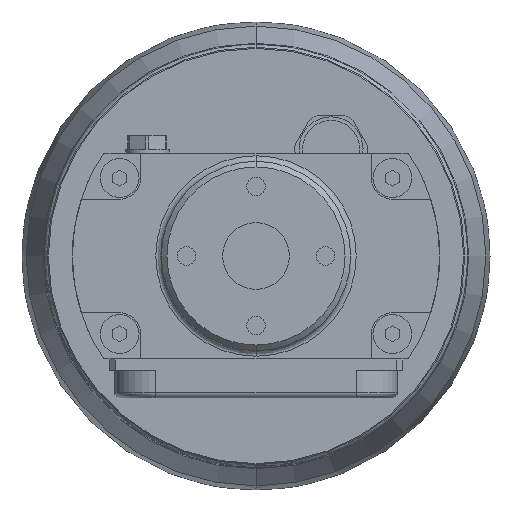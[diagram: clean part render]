
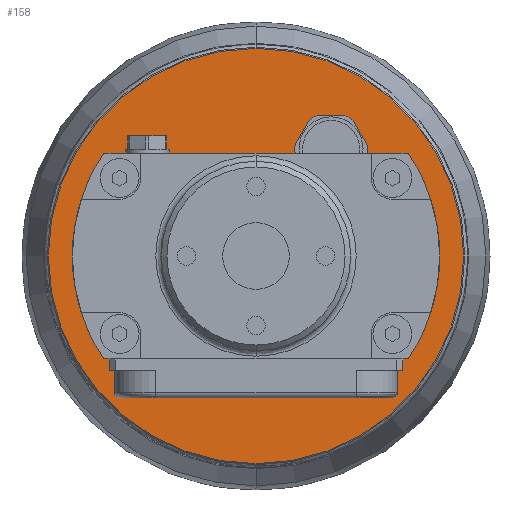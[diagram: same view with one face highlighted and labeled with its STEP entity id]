
A CAD part, front view. The second image highlights one B-rep face of the part: STEP entity #158.
In plain terms, the highlighted planar face has unit normal (0, -1, 0).
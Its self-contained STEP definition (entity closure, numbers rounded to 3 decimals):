
#158=ADVANCED_FACE('',(#1524,#1525,#1526),#1523,.F.);
#1523=PLANE('',#3728);
#1524=FACE_OUTER_BOUND('',#3729,.T.);
#1525=FACE_BOUND('',#3730,.T.);
#1526=FACE_BOUND('',#3731,.T.);
#3725=CARTESIAN_POINT('',(-74.605,29.5,-47.3));
#3726=DIRECTION('',(0.,1.,0.));
#3727=DIRECTION('',(0.,0.,1.));
#3728=AXIS2_PLACEMENT_3D('',#3725,#3726,#3727);
#3729=EDGE_LOOP('',(#6001,#6002));
#3730=EDGE_LOOP('',(#6003,#6004,#6005,#6006,#6007,#6008,#6009,#6010,#6011,#6012,#6013,#6014));
#3731=EDGE_LOOP('',(#6015,#6016,#6017,#6018,#6019,#6020,#6021,#6022));
#6001=ORIENTED_EDGE('',*,*,#7112,.T.);
#6002=ORIENTED_EDGE('',*,*,#7113,.T.);
#6003=ORIENTED_EDGE('',*,*,#7089,.F.);
#6004=ORIENTED_EDGE('',*,*,#7091,.F.);
#6005=ORIENTED_EDGE('',*,*,#7058,.F.);
#6006=ORIENTED_EDGE('',*,*,#7062,.F.);
#6007=ORIENTED_EDGE('',*,*,#7065,.F.);
#6008=ORIENTED_EDGE('',*,*,#7068,.F.);
#6009=ORIENTED_EDGE('',*,*,#7071,.F.);
#6010=ORIENTED_EDGE('',*,*,#7074,.F.);
#6011=ORIENTED_EDGE('',*,*,#7077,.F.);
#6012=ORIENTED_EDGE('',*,*,#7080,.F.);
#6013=ORIENTED_EDGE('',*,*,#7083,.F.);
#6014=ORIENTED_EDGE('',*,*,#7086,.F.);
#6015=ORIENTED_EDGE('',*,*,#7043,.F.);
#6016=ORIENTED_EDGE('',*,*,#7049,.F.);
#6017=ORIENTED_EDGE('',*,*,#7031,.F.);
#6018=ORIENTED_EDGE('',*,*,#7034,.F.);
#6019=ORIENTED_EDGE('',*,*,#7044,.F.);
#6020=ORIENTED_EDGE('',*,*,#7036,.F.);
#6021=ORIENTED_EDGE('',*,*,#7039,.T.);
#6022=ORIENTED_EDGE('',*,*,#7041,.F.);
#7031=EDGE_CURVE('',#9375,#9382,#9383,.T.);
#7034=EDGE_CURVE('',#9395,#9375,#9402,.T.);
#7036=EDGE_CURVE('',#9408,#9415,#9416,.T.);
#7039=EDGE_CURVE('',#9408,#9428,#9435,.T.);
#7041=EDGE_CURVE('',#9441,#9428,#9448,.T.);
#7043=EDGE_CURVE('',#9454,#9441,#9461,.T.);
#7044=EDGE_CURVE('',#9415,#9395,#9467,.T.);
#7049=EDGE_CURVE('',#9382,#9454,#9501,.T.);
#7058=EDGE_CURVE('',#9557,#9564,#9565,.T.);
#7062=EDGE_CURVE('',#9584,#9557,#9591,.T.);
#7065=EDGE_CURVE('',#9604,#9584,#9611,.T.);
#7068=EDGE_CURVE('',#9624,#9604,#9631,.T.);
#7071=EDGE_CURVE('',#9644,#9624,#9651,.T.);
#7074=EDGE_CURVE('',#9664,#9644,#9671,.T.);
#7077=EDGE_CURVE('',#9684,#9664,#9691,.T.);
#7080=EDGE_CURVE('',#9704,#9684,#9711,.T.);
#7083=EDGE_CURVE('',#9724,#9704,#9731,.T.);
#7086=EDGE_CURVE('',#9744,#9724,#9751,.T.);
#7089=EDGE_CURVE('',#9764,#9744,#9771,.T.);
#7091=EDGE_CURVE('',#9564,#9764,#9783,.T.);
#7112=EDGE_CURVE('',#9929,#9930,#9931,.T.);
#7113=EDGE_CURVE('',#9930,#9929,#9937,.T.);
#9375=VERTEX_POINT('',#12979);
#9382=VERTEX_POINT('',#12983);
#9383=LINE('',#12984,#12985);
#9395=VERTEX_POINT('',#12990);
#9402=CIRCLE('',#12997,33.);
#9408=VERTEX_POINT('',#12998);
#9415=VERTEX_POINT('',#13002);
#9416=CIRCLE('',#13006,1.);
#9428=VERTEX_POINT('',#13010);
#9435=CIRCLE('',#13017,8.5);
#9441=VERTEX_POINT('',#13018);
#9448=CIRCLE('',#13025,1.);
#9454=VERTEX_POINT('',#13026);
#9461=LINE('',#13030,#13031);
#9467=LINE('',#13033,#13034);
#9501=CIRCLE('',#13059,33.);
#9557=VERTEX_POINT('',#13096);
#9564=VERTEX_POINT('',#13100);
#9565=CIRCLE('',#13104,6.5);
#9584=VERTEX_POINT('',#13112);
#9591=LINE('',#13116,#13117);
#9604=VERTEX_POINT('',#13124);
#9611=CIRCLE('',#13131,6.5);
#9624=VERTEX_POINT('',#13136);
#9631=LINE('',#13140,#13141);
#9644=VERTEX_POINT('',#13148);
#9651=CIRCLE('',#13155,6.5);
#9664=VERTEX_POINT('',#13160);
#9671=LINE('',#13164,#13165);
#9684=VERTEX_POINT('',#13172);
#9691=CIRCLE('',#13179,6.5);
#9704=VERTEX_POINT('',#13184);
#9711=LINE('',#13188,#13189);
#9724=VERTEX_POINT('',#13196);
#9731=CIRCLE('',#13203,6.5);
#9744=VERTEX_POINT('',#13208);
#9751=LINE('',#13212,#13213);
#9764=VERTEX_POINT('',#13220);
#9771=CIRCLE('',#13227,6.5);
#9783=LINE('',#13231,#13232);
#9929=VERTEX_POINT('',#13334);
#9930=VERTEX_POINT('',#13335);
#9931=CIRCLE('',#13339,37.3);
#9937=CIRCLE('',#13343,37.3);
#12979=CARTESIAN_POINT('',(-27.327,29.5,-18.5));
#12983=CARTESIAN_POINT('',(27.327,29.5,-18.5));
#12984=CARTESIAN_POINT('',(-27.327,29.5,-18.5));
#12985=VECTOR('',#12986,54.653);
#12986=DIRECTION('',(1.,0.,0.));
#12990=CARTESIAN_POINT('',(-27.327,29.5,18.5));
#12994=CARTESIAN_POINT('',(0.,29.5,0.));
#12995=DIRECTION('',(0.,-1.,0.));
#12996=DIRECTION('',(0.,0.,1.));
#12997=AXIS2_PLACEMENT_3D('',#12994,#12995,#12996);
#12998=CARTESIAN_POINT('',(5.125,29.5,17.684));
#13002=CARTESIAN_POINT('',(4.142,29.5,18.5));
#13003=CARTESIAN_POINT('',(4.142,29.5,17.5));
#13004=DIRECTION('',(0.,-1.,0.));
#13005=DIRECTION('',(0.,0.,1.));
#13006=AXIS2_PLACEMENT_3D('',#13003,#13004,#13005);
#13010=CARTESIAN_POINT('',(21.834,29.5,17.684));
#13014=CARTESIAN_POINT('',(13.479,29.5,19.25));
#13015=DIRECTION('',(0.,-1.,0.));
#13016=DIRECTION('',(0.,0.,1.));
#13017=AXIS2_PLACEMENT_3D('',#13014,#13015,#13016);
#13018=CARTESIAN_POINT('',(22.816,29.5,18.5));
#13022=CARTESIAN_POINT('',(22.816,29.5,17.5));
#13023=DIRECTION('',(0.,-1.,0.));
#13024=DIRECTION('',(0.,0.,1.));
#13025=AXIS2_PLACEMENT_3D('',#13022,#13023,#13024);
#13026=CARTESIAN_POINT('',(27.327,29.5,18.5));
#13030=CARTESIAN_POINT('',(27.327,29.5,18.5));
#13031=VECTOR('',#13032,4.51);
#13032=DIRECTION('',(-1.,0.,0.));
#13033=CARTESIAN_POINT('',(4.142,29.5,18.5));
#13034=VECTOR('',#13035,31.468);
#13035=DIRECTION('',(-1.,0.,0.));
#13056=CARTESIAN_POINT('',(0.,29.5,0.));
#13057=DIRECTION('',(0.,-1.,0.));
#13058=DIRECTION('',(0.,0.,1.));
#13059=AXIS2_PLACEMENT_3D('',#13056,#13057,#13058);
#13096=CARTESIAN_POINT('',(9.533,29.5,14.085));
#13100=CARTESIAN_POINT('',(10.979,29.5,13.25));
#13101=CARTESIAN_POINT('',(13.479,29.5,19.25));
#13102=DIRECTION('',(0.,-1.,0.));
#13103=DIRECTION('',(0.,0.,1.));
#13104=AXIS2_PLACEMENT_3D('',#13101,#13102,#13103);
#13112=CARTESIAN_POINT('',(7.033,29.5,18.415));
#13116=CARTESIAN_POINT('',(7.033,29.5,18.415));
#13117=VECTOR('',#13118,5.);
#13118=DIRECTION('',(0.5,0.,-0.866));
#13124=CARTESIAN_POINT('',(7.033,29.5,20.085));
#13128=CARTESIAN_POINT('',(13.479,29.5,19.25));
#13129=DIRECTION('',(0.,-1.,0.));
#13130=DIRECTION('',(0.,0.,1.));
#13131=AXIS2_PLACEMENT_3D('',#13128,#13129,#13130);
#13136=CARTESIAN_POINT('',(9.533,29.5,24.415));
#13140=CARTESIAN_POINT('',(9.533,29.5,24.415));
#13141=VECTOR('',#13142,5.);
#13142=DIRECTION('',(-0.5,0.,-0.866));
#13148=CARTESIAN_POINT('',(10.979,29.5,25.25));
#13152=CARTESIAN_POINT('',(13.479,29.5,19.25));
#13153=DIRECTION('',(0.,-1.,0.));
#13154=DIRECTION('',(0.,0.,1.));
#13155=AXIS2_PLACEMENT_3D('',#13152,#13153,#13154);
#13160=CARTESIAN_POINT('',(15.979,29.5,25.25));
#13164=CARTESIAN_POINT('',(15.979,29.5,25.25));
#13165=VECTOR('',#13166,5.);
#13166=DIRECTION('',(-1.,0.,0.));
#13172=CARTESIAN_POINT('',(17.425,29.5,24.415));
#13176=CARTESIAN_POINT('',(13.479,29.5,19.25));
#13177=DIRECTION('',(0.,-1.,0.));
#13178=DIRECTION('',(0.,0.,1.));
#13179=AXIS2_PLACEMENT_3D('',#13176,#13177,#13178);
#13184=CARTESIAN_POINT('',(19.925,29.5,20.085));
#13188=CARTESIAN_POINT('',(19.925,29.5,20.085));
#13189=VECTOR('',#13190,5.);
#13190=DIRECTION('',(-0.5,0.,0.866));
#13196=CARTESIAN_POINT('',(19.925,29.5,18.415));
#13200=CARTESIAN_POINT('',(13.479,29.5,19.25));
#13201=DIRECTION('',(0.,-1.,0.));
#13202=DIRECTION('',(0.,0.,1.));
#13203=AXIS2_PLACEMENT_3D('',#13200,#13201,#13202);
#13208=CARTESIAN_POINT('',(17.425,29.5,14.085));
#13212=CARTESIAN_POINT('',(17.425,29.5,14.085));
#13213=VECTOR('',#13214,5.);
#13214=DIRECTION('',(0.5,0.,0.866));
#13220=CARTESIAN_POINT('',(15.979,29.5,13.25));
#13224=CARTESIAN_POINT('',(13.479,29.5,19.25));
#13225=DIRECTION('',(0.,-1.,0.));
#13226=DIRECTION('',(0.,0.,1.));
#13227=AXIS2_PLACEMENT_3D('',#13224,#13225,#13226);
#13231=CARTESIAN_POINT('',(10.979,29.5,13.25));
#13232=VECTOR('',#13233,5.);
#13233=DIRECTION('',(1.,0.,0.));
#13334=CARTESIAN_POINT('',(0.,29.5,-37.3));
#13335=CARTESIAN_POINT('',(0.,29.5,37.3));
#13336=CARTESIAN_POINT('',(0.,29.5,0.));
#13337=DIRECTION('',(0.,-1.,0.));
#13338=DIRECTION('',(0.,0.,-1.));
#13339=AXIS2_PLACEMENT_3D('',#13336,#13337,#13338);
#13340=CARTESIAN_POINT('',(0.,29.5,0.));
#13341=DIRECTION('',(0.,-1.,0.));
#13342=DIRECTION('',(0.,0.,-1.));
#13343=AXIS2_PLACEMENT_3D('',#13340,#13341,#13342);
